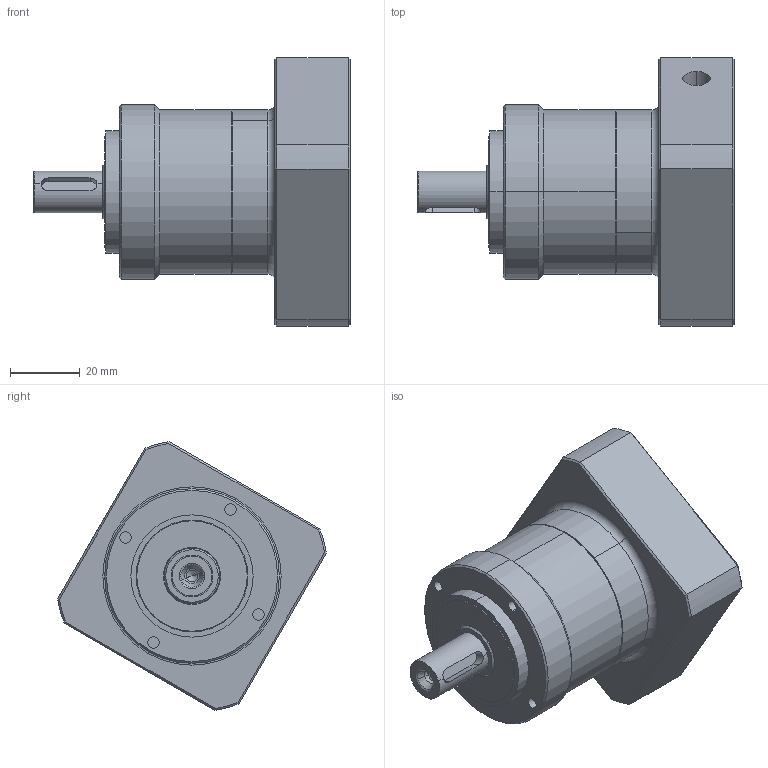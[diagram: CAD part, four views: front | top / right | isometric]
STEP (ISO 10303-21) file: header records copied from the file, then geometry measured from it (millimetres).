
FILE_DESCRIPTION (( 'STEP AP203' ), '1' );
FILE_NAME ('TCE050-.STEP', '2020-10-14T00:57:28', ( 'Windows 蚚誧' ), ( 'Microsoft' ), 'SwSTEP 2.0', 'SolidWorks 2017', '' );
FILE_SCHEMA (( 'CONFIG_CONTROL_DESIGN' ));
Length unit declared in the file: millimetre
Products named in the file (6): TCE050-FLB; 060-jjt-02; TCE050-CQA; TCE050-CZA; SCA-001-13; TCE050-
Assembly tree (5 placements, depth 2):
  TCE050-
    TCE050-CQA
    TCE050-FLB
    TCE050-CZA
    SCA-001-13
    060-jjt-02
Bounding box: 90.5 x 76.88 x 76.88 mm (x, y, z)
Volume: 125549.6 mm3; surface area: 38779.2 mm2
Topology: 5 solids, 6 shells, 305 faces, 685 edges, 432 vertices
Faces by surface type: cylinder 135, plane 103, cone 55, torus 12
Entity records: 9634 total; most frequent: CARTESIAN_POINT 1993, DIRECTION 1582, ORIENTED_EDGE 1366, EDGE_CURVE 683, AXIS2_PLACEMENT_3D 661, VERTEX_POINT 432, EDGE_LOOP 369, CIRCLE 348
